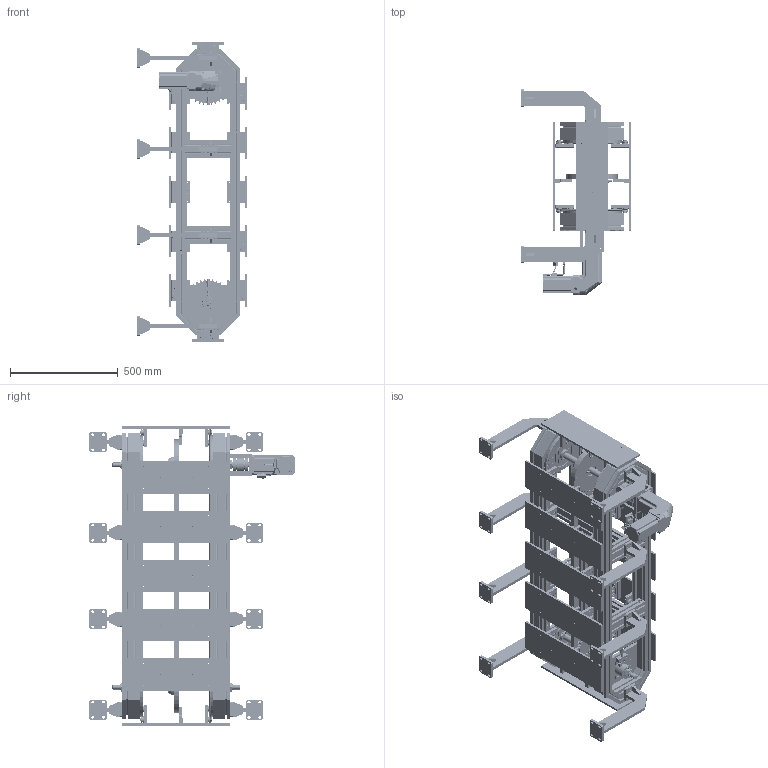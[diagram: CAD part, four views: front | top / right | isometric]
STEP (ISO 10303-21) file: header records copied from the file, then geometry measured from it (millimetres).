
FILE_DESCRIPTION (( 'STEP AP214' ), '1' );
FILE_NAME ('4.5-HDSX(軞盄极)-L1.STEP', '2023-04-05T07:06:13', ( '' ), ( '' ), 'SwSTEP 2.0', 'SolidWorks 2016', '' );
FILE_SCHEMA (( 'AUTOMOTIVE_DESIGN' ));
Length unit declared in the file: millimetre
Products named in the file (86): 衵-4.5-HDSX-籵蚚桲踡郪-L2; 4.5-HDSX-SC21-AAA-TB1-苤陬啣255-L1; 4.5-HDSX-SC21-GBA02-TB1-眻晚倰第255-L1; 衵-4.5-HDSX-SC19-AOA01-LA1-ぇ陑幗謫粣-L2; 4.5-HDSX(酘盄极)-L1; 4.5-HDSX-SC21-AGA01-TB1-幗謫脹詢菜え-L1; 4.5-HDSX-苤陬蟀諉啣; 蟈謫郪2-4.5-HDSX-SC21-DDA02-TB1-M27-3.0滅侂蹟譫-L1; 4.5-HDSX-蟀諉郪-L1; 衵-4.5-HDSX-255-邳埴倰第郪-L2; 4.5-HDSX-SC21-ACB02-TB1-轻载环轨255-L1; 4.5-HDSX-750W萇儂郪-L1; 衵-4.5-HDSX-SC19-AIA01-LA1-幗謫蚳蚚蹟譫-L2; 衵-4.5-HDSX-255蟈沭GMP郪-L2; 4.5-HDSX-SC21-HAA01-TB1-翋雄菁啣255-L1; 衵-4.5-HDSX-SC19-AHA01-LA1-幗謫蚳蚚菜え-L2; 链轮组2-4.5-HDSX-SC21-DAB01-TB1-主动轴承座6006-L1; 4.5-HDSX-萇儂750W-L1; 4.5-耳6傲跳堵; 衵-4.5-HDSX-SC21-DHB01-TB1-桲踡蜇璃-L2; 右-4.5-HDSX-SC21-ADB02-TB1-链条连接附件-松-L2; 4.5-HDSX-9.21-7.30-PD90-SJH01_3.傖こ-1z2-RR-L1; 4.5-HDSX-訇晚倰第-L1; 4.5-HDSX-255蟈沭-邳埴-L1; 4.5-HDSX-255-邳埴倰第郪-L1; 衵-4.5-HDSX-SC21-HAA01-TB1-翋雄菁啣255-L2; 4.5-HDSX-SC19-AFA01-LA1-幗謫-L1; 衵-4.5-HDSX-SC21-GBA02-TB1-眻晚倰第255-L2; 4.5-HDSX-SC21-CAA03-TB1-351翋雄蟈謫36C_05B; 4.5-HDSX-4080倰第酗晚-255-L1; 4.5-HDSX-联轴器68-75-22-22-6T-L1; 蟈謫郪2-4.5-HDSX-SC21-DHC01-TB1-桲踡蹟佪-L1; 4.5-翋雄粣陑癹弇輸-L.SLDPLT; 4.5-覜茼羲壽盓殤; 衵-4.5-HDSX-SC21-GAA02-TB1-笢潔倰第255-L2; 衵-4.5-HDSX-255-蟈沭苤陬郪-L2; 4.5-HDSX-SC21-FAA01-TB1-6006U倰鎮湛盓殤-L1; 蟈謫郪2-4.5-HDSX-SC21-DHB01-TB1-桲踡蜇璃-L1; 衵-4.5-HDSX-SC21-DHA01-TB1-桲踡輸-L2; 4.5-HDSX-笢潔蟀諉倰第-L1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
Assembly tree (190 placements, depth 5):
  4.5-HDSX(軞盄极)-L1
    4.5-HDSX(酘盄极)-L1
      4.5-HDSX-255蟈沭GMP郪-L1
        4.5-HDSX-SC19-ABA01-LA1-眻寢酗僅A-L1  x2
        4.5-HDSX-SC21-ACB02-TB1-轻载环轨255-L1  x2
        4.5-HDSX-255-蟈沭苤陬郪-L1  x12
          4.5-HDSX-SC21-AAA-TB1-苤陬啣255-L1
          4.5-HDSX-SC21-AGA01-TB1-幗謫脹詢菜え-L1
          4.5-HDSX-SC21-AMA01-TB1-蚐碟-L1
          4.5-HDSX-SC19-AFA01-LA1-幗謫-L1
          4.5-HDSX-SC19-ANA01-LA1-肮陑幗謫粣-L1
          4.5-HDSX-SC19-AOA01-LA1-ぇ陑幗謫粣-L1
          4.5-HDSX-SC19-AIA01-LA1-幗謫蚳蚚蹟譫-L1
          4.5-HDSX-SC19-AHA01-LA1-幗謫蚳蚚菜え-L1
      4.5-HDSX-255-邳埴倰第郪-L1
        4.5-HDSX-4080倰第酗晚-255-L1  x2
        4.5-HDSX-SC21-GAA02-TB1-笢潔倰第255-L1  x2
        4.5-HDSX-訇晚倰第-L1  x4
        4.5-HDSX-訇晚倰第2-L1  x2
        4.5-HDSX-SC21-GBA02-TB1-眻晚倰第255-L1  x2
      4.5-HDSX-SC21-HAA01-TB1-翋雄菁啣255-L1  x2
      4.5-HDSX-750W萇儂郪-L1
        4.5-HDSX-SC21-FAA01-TB1-6006U倰鎮湛盓殤-L1
        4.5-HDSX-萇儂750W-L1
        4.5-HDSX-联轴器68-75-22-22-6T-L1
        4.5-HDSX-750W-90°减速机-L1
          4.5-HDSX-9.21-7.30-PD90-内齿圈_108T-1z2-RR-L1
          4.5-HDSX-9.21-7.30-PD90-奻裔啣_108T-1z2-RR-L1
          4.5-HDSX-9.21-7.30-PD90-SJH01_3.傖こ-1z2-RR-L1
          4.5-HDSX-9.21-7.30-邧埴瑩 6x6x25-1z2-RR-L1
          4.5-HDSX-9.21-7.30-PD90-眊极_桽倰2-1z2-RR-L1
          4.5-HDSX-9.21-7.30-PDR90-LJ_珨极宒 梓袧-1z2-RR-L1
          4.5-HDSX-9.21-7.30-内六角圆柱头螺钉M5×20-1z2-RR-L1
      4.5-HDSX-255蟈沭-邳埴-L1
      蟈謫郪2-4.5-HDSX-255蟈謫謫郪-L1  x2
        蟈謫郪2-4.5-HDSX-SC21-DDA02-TB1-M27-3.0滅侂蹟譫-L1
        链轮组2-4.5-HDSX-SC21-DAB01-TB1-主动轴承座6006-L1
        蟈謫郪2-4.5-HDSX-6006-2Z-L1
        链轮组2-4.5-HDSX-通用张紧组-L1
          蟈謫郪2-4.5-HDSX-SC21-DHA01-TB1-桲踡輸-L1
          蟈謫郪2-4.5-HDSX-SC21-DHB01-TB1-桲踡蜇璃-L1
          蟈謫郪2-4.5-HDSX-SC21-DHC01-TB1-桲踡蹟佪-L1
        4.5-HDSX-翋雄粣陑-L.SLDPLT
        4.5-翋雄粣陑癹弇輸-L.SLDPLT
        4.5-HDSX-轎瑩粣傍MLMB38-L1
          4.5-HDSX--轎瑩粣傍MLMB38-L1
          hexagon socket head cap screws gb_GB_FASTENER_SCREWS_HSHCS M6X30-N  x10
        4.5-HDSX-SC21-CAA03-TB1-351翋雄蟈謫36C_05B
        4.5-耳6傲跳堵
    4.5-HDSX(衵盄极)-L2
      衵-4.5-HDSX-255蟈沭GMP郪-L2
        衵-4.5-HDSX-SC19-ABA01-LA1-眻寢酗僅A-L2  x2
        右-4.5-HDSX-SC21-ACB02-TB1-轻载环轨255-L2  x2
        衵-4.5-HDSX-255-蟈沭苤陬郪-L2  x12
          衵-4.5-HDSX-SC21-AAA-TB1-苤陬啣255-L2
          衵-4.5-HDSX-SC21-AGA01-TB1-幗謫脹詢菜え-L2
          衵-4.5-HDSX-SC21-AMA01-TB1-蚐碟-L2
          衵-4.5-HDSX-SC19-AFA01-LA1-幗謫-L2
          衵-4.5-HDSX-SC19-ANA01-LA1-肮陑幗謫粣-L2
          衵-4.5-HDSX-SC19-AOA01-LA1-ぇ陑幗謫粣-L2
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Bounding box: 510.72 x 951.78 x 1388.77 mm (x, y, z)
Volume: 39733756.7 mm3; surface area: 12000176.4 mm2
Topology: 748 solids, 799 shells, 29338 faces, 74856 edges, 47443 vertices
Faces by surface type: plane 13273, cylinder 10081, bspline 3787, cone 1741, torus 429, sphere 27
Entity records: 266678 total; most frequent: CARTESIAN_POINT 76195, ORIENTED_EDGE 37658, DIRECTION 37183, EDGE_CURVE 18829, AXIS2_PLACEMENT_3D 14241, VERTEX_POINT 12322, LINE 8701, VECTOR 8701
